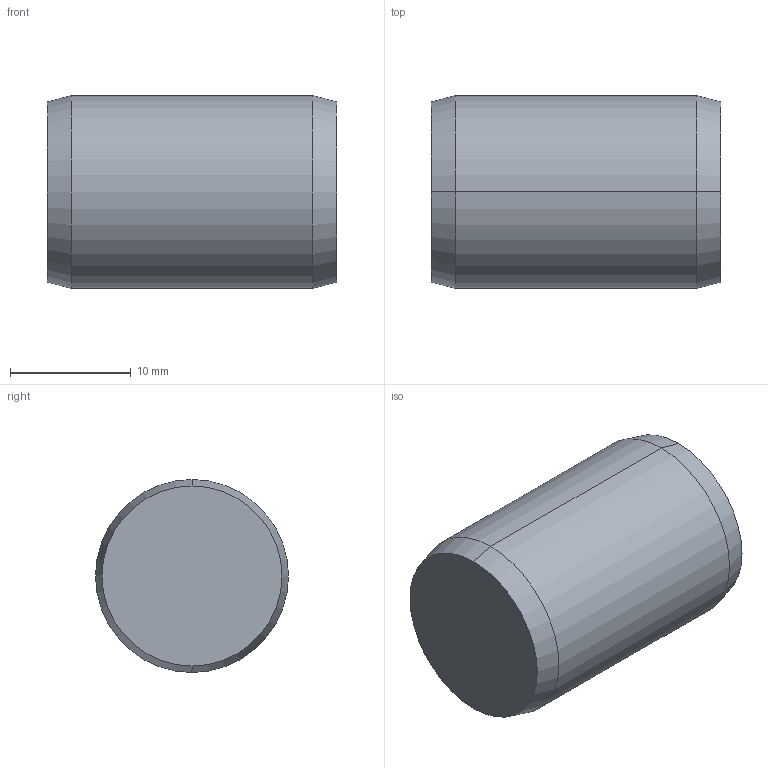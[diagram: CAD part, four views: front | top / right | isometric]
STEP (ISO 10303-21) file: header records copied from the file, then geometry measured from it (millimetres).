
FILE_DESCRIPTION (( 'STEP AP203' ), '1' );
FILE_NAME ('P1206.160-024 .step', '2017-06-14T08:41:59', ( 'User' ), ( '' ), 'SwSTEP 2.0', 'SolidWorks 2009', '' );
FILE_SCHEMA (( 'CONFIG_CONTROL_DESIGN' ));
Length unit declared in the file: millimetre
Products named in the file (1): P1206.160-024 
Bounding box: 24 x 16 x 16 mm (x, y, z)
Volume: 4772.8 mm3; surface area: 1556.5 mm2
Topology: 1 solids, 1 shells, 8 faces, 14 edges, 8 vertices
Faces by surface type: cone 4, cylinder 2, plane 2
Entity records: 271 total; most frequent: DIRECTION 40, CARTESIAN_POINT 31, ORIENTED_EDGE 28, AXIS2_PLACEMENT_3D 17, EDGE_CURVE 14, CIRCLE 8, FACE_OUTER_BOUND 8, ADVANCED_FACE 8
